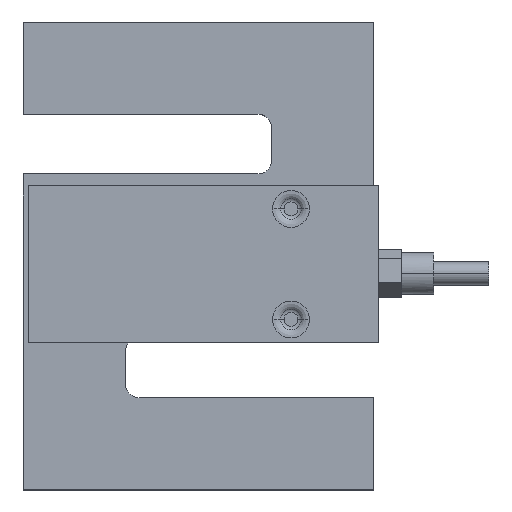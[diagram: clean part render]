
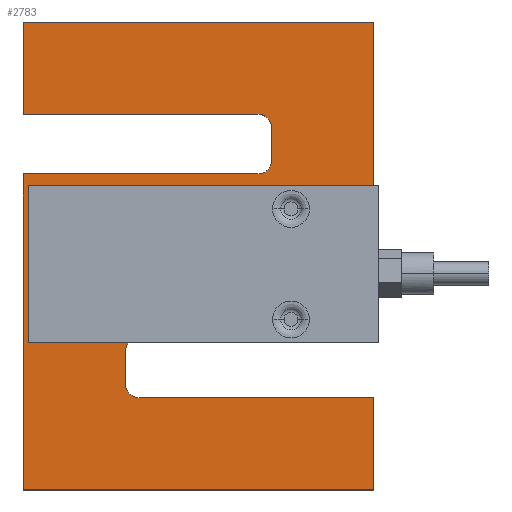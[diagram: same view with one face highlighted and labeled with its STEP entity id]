
A CAD part, top view. The second image highlights one B-rep face of the part: STEP entity #2783.
In plain terms, the highlighted planar face has unit normal (0, 0, 1).
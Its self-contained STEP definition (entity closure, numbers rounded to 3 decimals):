
#33 = VERTEX_POINT ( 'NONE', #1992 ) ;
#35 = VERTEX_POINT ( 'NONE', #2283 ) ;
#48 = VERTEX_POINT ( 'NONE', #2277 ) ;
#57 = VERTEX_POINT ( 'NONE', #2268 ) ;
#62 = VERTEX_POINT ( 'NONE', #2263 ) ;
#76 = VERTEX_POINT ( 'NONE', #2249 ) ;
#81 = VERTEX_POINT ( 'NONE', #2244 ) ;
#82 = VERTEX_POINT ( 'NONE', #2243 ) ;
#85 = VERTEX_POINT ( 'NONE', #2240 ) ;
#86 = VERTEX_POINT ( 'NONE', #2239 ) ;
#87 = VERTEX_POINT ( 'NONE', #2238 ) ;
#96 = VERTEX_POINT ( 'NONE', #2229 ) ;
#106 = VERTEX_POINT ( 'NONE', #2219 ) ;
#118 = VERTEX_POINT ( 'NONE', #2207 ) ;
#119 = VERTEX_POINT ( 'NONE', #2206 ) ;
#120 = VERTEX_POINT ( 'NONE', #2205 ) ;
#1173 = EDGE_CURVE ( 'NONE', #57, #120, #2481, .T. ) ;
#1176 = EDGE_CURVE ( 'NONE', #86, #33, #2169, .T. ) ;
#1181 = EDGE_CURVE ( 'NONE', #76, #48, #2154, .T. ) ;
#1187 = EDGE_CURVE ( 'NONE', #85, #35, #4133, .T. ) ;
#1188 = EDGE_CURVE ( 'NONE', #33, #85, #4119, .T. ) ;
#1227 = LINE ( 'NONE', #1228, #3836 ) ;
#1228 = CARTESIAN_POINT ( 'NONE',  ( 43.123, 85.565, 53.748 ) ) ;
#1235 = CARTESIAN_POINT ( 'NONE',  ( 17.923, 62.565, 53.748 ) ) ;
#1236 = DIRECTION ( 'NONE',  ( 0., 0., -1. ) ) ;
#1237 = DIRECTION ( 'NONE',  ( -1., 0., 0. ) ) ;
#1238 = DIRECTION ( 'NONE',  ( -1., 0., 0. ) ) ;
#1245 = LINE ( 'NONE', #1246, #3844 ) ;
#1246 = CARTESIAN_POINT ( 'NONE',  ( -33.077, 85.565, 53.748 ) ) ;
#1256 = DIRECTION ( 'NONE',  ( 0., -1., 0. ) ) ;
#1272 = LINE ( 'NONE', #1273, #3851 ) ;
#1273 = CARTESIAN_POINT ( 'NONE',  ( 43.123, 16.965, 53.748 ) ) ;
#1274 = DIRECTION ( 'NONE',  ( 0., 1., 0. ) ) ;
#1276 = CARTESIAN_POINT ( 'NONE',  ( 17.923, 55.565, 53.748 ) ) ;
#1277 = DIRECTION ( 'NONE',  ( 0., 0., -1. ) ) ;
#1278 = DIRECTION ( 'NONE',  ( -1., 0., 0. ) ) ;
#1777 = ORIENTED_EDGE ( 'NONE', *, *, #1187, .T. ) ;
#1873 = ORIENTED_EDGE ( 'NONE', *, *, #1181, .T. ) ;
#1878 = ORIENTED_EDGE ( 'NONE', *, *, #4019, .T. ) ;
#1880 = ORIENTED_EDGE ( 'NONE', *, *, #4018, .T. ) ;
#1882 = ORIENTED_EDGE ( 'NONE', *, *, #4025, .T. ) ;
#1885 = ORIENTED_EDGE ( 'NONE', *, *, #3877, .T. ) ;
#1886 = ORIENTED_EDGE ( 'NONE', *, *, #3905, .T. ) ;
#1889 = ORIENTED_EDGE ( 'NONE', *, *, #4115, .T. ) ;
#1891 = ORIENTED_EDGE ( 'NONE', *, *, #1173, .T. ) ;
#1896 = ORIENTED_EDGE ( 'NONE', *, *, #3901, .T. ) ;
#1898 = ORIENTED_EDGE ( 'NONE', *, *, #3902, .T. ) ;
#1907 = ORIENTED_EDGE ( 'NONE', *, *, #4114, .T. ) ;
#1914 = ORIENTED_EDGE ( 'NONE', *, *, #3892, .T. ) ;
#1926 = ORIENTED_EDGE ( 'NONE', *, *, #1188, .T. ) ;
#1927 = ORIENTED_EDGE ( 'NONE', *, *, #1176, .T. ) ;
#1928 = ORIENTED_EDGE ( 'NONE', *, *, #3886, .T. ) ;
#1992 = CARTESIAN_POINT ( 'NONE',  ( 43.123, -16.035, 53.748 ) ) ;
#2036 = VECTOR ( 'NONE', #3438, 1000. ) ;
#2039 = VECTOR ( 'NONE', #3430, 1000. ) ;
#2040 = VECTOR ( 'NONE', #3427, 1000. ) ;
#2057 = VECTOR ( 'NONE', #3400, 1000. ) ;
#2066 = VECTOR ( 'NONE', #3382, 1000. ) ;
#2078 = AXIS2_PLACEMENT_3D ( 'NONE', #3353, #3354, #3355 ) ;
#2082 = CIRCLE ( 'NONE', #2078, 3. ) ;
#2148 = CARTESIAN_POINT ( 'NONE',  ( 20.923, 62.565, 53.748 ) ) ;
#2154 = LINE ( 'NONE', #2148, #2365 ) ;
#2162 = DIRECTION ( 'NONE',  ( 1., 0., 0. ) ) ;
#2163 = CARTESIAN_POINT ( 'NONE',  ( -33.077, -16.035, 53.748 ) ) ;
#2169 = LINE ( 'NONE', #2163, #2541 ) ;
#2170 = DIRECTION ( 'NONE',  ( -1., 0., 0. ) ) ;
#2171 = DIRECTION ( 'NONE',  ( 0., 0., -1. ) ) ;
#2172 = CARTESIAN_POINT ( 'NONE',  ( -7.877, 13.965, 53.748 ) ) ;
#2205 = CARTESIAN_POINT ( 'NONE',  ( -7.877, 16.965, 53.748 ) ) ;
#2206 = CARTESIAN_POINT ( 'NONE',  ( 43.123, 16.965, 53.748 ) ) ;
#2207 = CARTESIAN_POINT ( 'NONE',  ( -33.077, 52.565, 53.748 ) ) ;
#2219 = CARTESIAN_POINT ( 'NONE',  ( 43.123, 85.565, 53.748 ) ) ;
#2229 = CARTESIAN_POINT ( 'NONE',  ( -10.877, 6.965, 53.748 ) ) ;
#2238 = CARTESIAN_POINT ( 'NONE',  ( 17.923, 52.565, 53.748 ) ) ;
#2239 = CARTESIAN_POINT ( 'NONE',  ( -33.077, -16.035, 53.748 ) ) ;
#2240 = CARTESIAN_POINT ( 'NONE',  ( 43.123, 3.965, 53.748 ) ) ;
#2243 = CARTESIAN_POINT ( 'NONE',  ( -33.077, 65.565, 53.748 ) ) ;
#2244 = CARTESIAN_POINT ( 'NONE',  ( 17.923, 65.565, 53.748 ) ) ;
#2249 = CARTESIAN_POINT ( 'NONE',  ( 20.923, 62.565, 53.748 ) ) ;
#2263 = CARTESIAN_POINT ( 'NONE',  ( -33.077, 85.565, 53.748 ) ) ;
#2268 = CARTESIAN_POINT ( 'NONE',  ( -10.877, 13.965, 53.748 ) ) ;
#2277 = CARTESIAN_POINT ( 'NONE',  ( 20.923, 55.565, 53.748 ) ) ;
#2283 = CARTESIAN_POINT ( 'NONE',  ( -7.877, 3.965, 53.748 ) ) ;
#2360 = VECTOR ( 'NONE', #4120, 1000. ) ;
#2365 = VECTOR ( 'NONE', #4139, 1000. ) ;
#2380 = VECTOR ( 'NONE', #3800, 1000. ) ;
#2440 = AXIS2_PLACEMENT_3D ( 'NONE', #2172, #2171, #2170 ) ;
#2481 = CIRCLE ( 'NONE', #2440, 3. ) ;
#2525 = AXIS2_PLACEMENT_3D ( 'NONE', #2950, #2951, #2952 ) ;
#2541 = VECTOR ( 'NONE', #2162, 1000. ) ;
#2783 = ADVANCED_FACE ( 'NONE', ( #2940 ), #2924, .F. ) ;
#2924 = PLANE ( 'NONE',  #2525 ) ;
#2940 = FACE_OUTER_BOUND ( 'NONE', #4011, .T. ) ;
#2950 = CARTESIAN_POINT ( 'NONE',  ( 17.923, 62.565, 53.748 ) ) ;
#2951 = DIRECTION ( 'NONE',  ( 0., 0., -1. ) ) ;
#2952 = DIRECTION ( 'NONE',  ( -1., 0., 0. ) ) ;
#3353 = CARTESIAN_POINT ( 'NONE',  ( -7.877, 6.965, 53.748 ) ) ;
#3354 = DIRECTION ( 'NONE',  ( 0., 0., -1. ) ) ;
#3355 = DIRECTION ( 'NONE',  ( -1., 0., 0. ) ) ;
#3380 = LINE ( 'NONE', #3381, #2066 ) ;
#3381 = CARTESIAN_POINT ( 'NONE',  ( -7.877, 16.965, 53.748 ) ) ;
#3382 = DIRECTION ( 'NONE',  ( 1., 0., 0. ) ) ;
#3398 = LINE ( 'NONE', #3399, #2057 ) ;
#3399 = CARTESIAN_POINT ( 'NONE',  ( -10.877, 13.965, 53.748 ) ) ;
#3400 = DIRECTION ( 'NONE',  ( 0., 1., 0. ) ) ;
#3418 = CARTESIAN_POINT ( 'NONE',  ( -33.077, 52.565, 53.748 ) ) ;
#3419 = LINE ( 'NONE', #3418, #2036 ) ;
#3425 = LINE ( 'NONE', #3426, #2040 ) ;
#3426 = CARTESIAN_POINT ( 'NONE',  ( -33.077, 65.565, 53.748 ) ) ;
#3427 = DIRECTION ( 'NONE',  ( 1., 0., 0. ) ) ;
#3428 = LINE ( 'NONE', #3429, #2039 ) ;
#3429 = CARTESIAN_POINT ( 'NONE',  ( 17.923, 52.565, 53.748 ) ) ;
#3430 = DIRECTION ( 'NONE',  ( -1., 0., 0. ) ) ;
#3438 = DIRECTION ( 'NONE',  ( 0., -1., 0. ) ) ;
#3800 = DIRECTION ( 'NONE',  ( 0., 1., 0. ) ) ;
#3801 = CARTESIAN_POINT ( 'NONE',  ( 43.123, -16.035, 53.748 ) ) ;
#3835 = CIRCLE ( 'NONE', #3837, 3. ) ;
#3836 = VECTOR ( 'NONE', #1238, 1000. ) ;
#3837 = AXIS2_PLACEMENT_3D ( 'NONE', #1235, #1236, #1237 ) ;
#3844 = VECTOR ( 'NONE', #1256, 1000. ) ;
#3851 = VECTOR ( 'NONE', #1274, 1000. ) ;
#3852 = CIRCLE ( 'NONE', #3854, 3. ) ;
#3854 = AXIS2_PLACEMENT_3D ( 'NONE', #1276, #1277, #1278 ) ;
#3877 = EDGE_CURVE ( 'NONE', #35, #96, #2082, .T. ) ;
#3886 = EDGE_CURVE ( 'NONE', #120, #119, #3380, .T. ) ;
#3892 = EDGE_CURVE ( 'NONE', #96, #57, #3398, .T. ) ;
#3901 = EDGE_CURVE ( 'NONE', #82, #81, #3425, .T. ) ;
#3902 = EDGE_CURVE ( 'NONE', #87, #118, #3428, .T. ) ;
#3905 = EDGE_CURVE ( 'NONE', #118, #86, #3419, .T. ) ;
#4011 = EDGE_LOOP ( 'NONE', ( #1878, #1882, #1896, #1880, #1873, #1889, #1898, #1886, #1927, #1926, #1777, #1885, #1914, #1891, #1928, #1907 ) ) ;
#4018 = EDGE_CURVE ( 'NONE', #81, #76, #3835, .T. ) ;
#4019 = EDGE_CURVE ( 'NONE', #106, #62, #1227, .T. ) ;
#4025 = EDGE_CURVE ( 'NONE', #62, #82, #1245, .T. ) ;
#4114 = EDGE_CURVE ( 'NONE', #119, #106, #1272, .T. ) ;
#4115 = EDGE_CURVE ( 'NONE', #48, #87, #3852, .T. ) ;
#4119 = LINE ( 'NONE', #3801, #2380 ) ;
#4120 = DIRECTION ( 'NONE',  ( -1., 0., 0. ) ) ;
#4133 = LINE ( 'NONE', #4137, #2360 ) ;
#4137 = CARTESIAN_POINT ( 'NONE',  ( 43.123, 3.965, 53.748 ) ) ;
#4139 = DIRECTION ( 'NONE',  ( 0., -1., 0. ) ) ;
